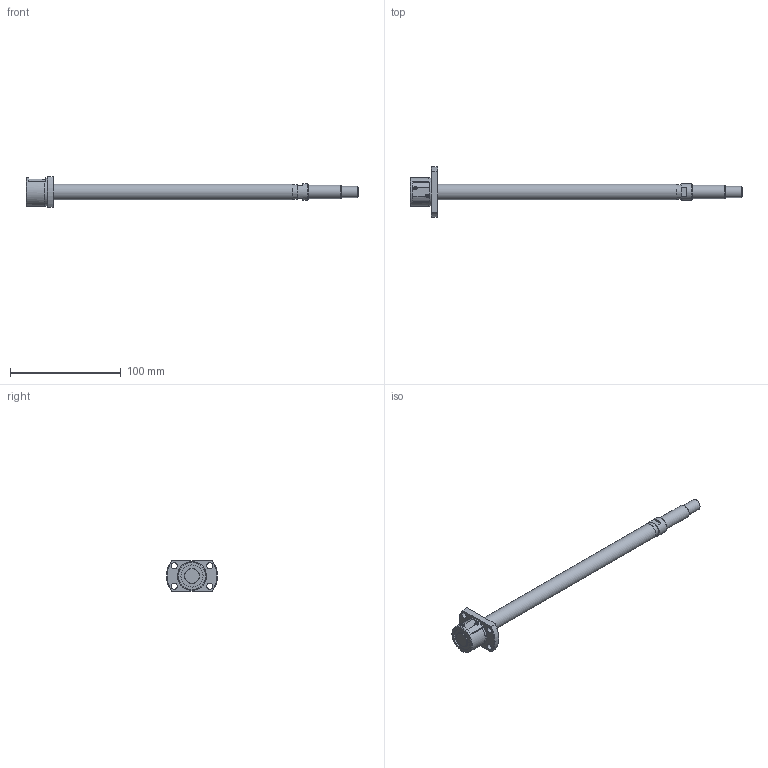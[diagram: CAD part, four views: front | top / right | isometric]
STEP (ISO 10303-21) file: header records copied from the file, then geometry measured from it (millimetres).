
FILE_DESCRIPTION( ( 'STEP AP203' ), '1' );
FILE_NAME( 'e:/temp/worker_83/temp/exporttempdir_4668_584_68Dbf/format_0/SG1402-241R300C3A1X(0).stp', '2021-10-19T00:47:57', ( 'License CC BY-ND 4.0' ), ( 'CADENAS' ), ' ', 'PARTsolutions', ' ' );
FILE_SCHEMA( ( 'CONFIG_CONTROL_DESIGN' ) );
Length unit declared in the file: millimetre
Products named in the file (3): SG1402-241R300C3A1X(0); _SG1402-241R300C3A_shaft; _SG1402_nut
Assembly tree (2 placements, depth 2):
  SG1402-241R300C3A1X(0)
    _SG1402-241R300C3A_shaft
    _SG1402_nut
Bounding box: 300 x 46 x 28 mm (x, y, z)
Volume: 56099.8 mm3; surface area: 19009.1 mm2
Topology: 2 solids, 2 shells, 78 faces, 190 edges, 124 vertices
Faces by surface type: plane 38, cylinder 26, cone 13, torus 1
Full cylindrical faces by diameter (mm): 5.5 x4, 10 x1, 12 x1, 12.77 x1, 14 x2, 15 x1, 20 x2, 25.6 x1, 26 x1
Entity records: 2270 total; most frequent: CARTESIAN_POINT 433, DIRECTION 376, ORIENTED_EDGE 312, AXIS2_PLACEMENT_3D 157, EDGE_CURVE 156, EDGE_LOOP 120, VERTEX_POINT 114, FACE_OUTER_BOUND 93
